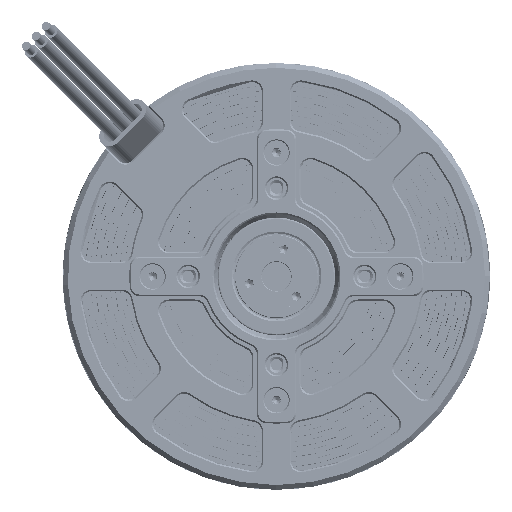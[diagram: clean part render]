
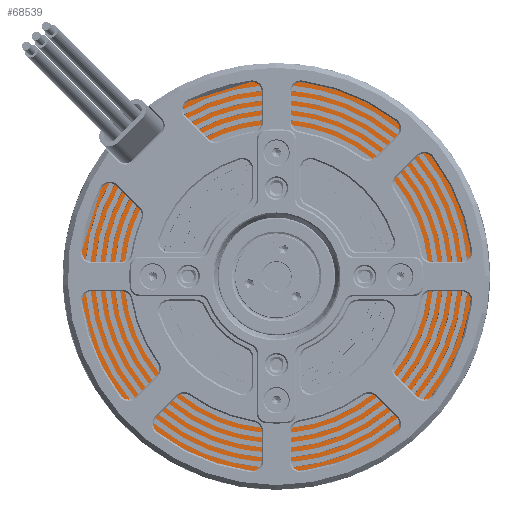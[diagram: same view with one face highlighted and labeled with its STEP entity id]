
A CAD part, front view. The second image highlights one B-rep face of the part: STEP entity #68539.
In plain terms, the highlighted planar face has unit normal (0, -1, 0).
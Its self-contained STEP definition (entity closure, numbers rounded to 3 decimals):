
#2717 = VERTEX_POINT ( 'NONE', #44372 ) ;
#3557 = DIRECTION ( 'NONE',  ( 0., -1., 0. ) ) ;
#4294 = DIRECTION ( 'NONE',  ( 1., 0., 0. ) ) ;
#6452 = DIRECTION ( 'NONE',  ( 0., 0., 1. ) ) ;
#6927 = CIRCLE ( 'NONE', #136398, 42.25 ) ;
#12426 = DIRECTION ( 'NONE',  ( 0., -1., 0. ) ) ;
#20035 = ORIENTED_EDGE ( 'NONE', *, *, #89862, .F. ) ;
#20602 = VERTEX_POINT ( 'NONE', #112180 ) ;
#23413 = AXIS2_PLACEMENT_3D ( 'NONE', #75100, #12426, #58791 ) ;
#28948 = EDGE_LOOP ( 'NONE', ( #59340, #51179 ) ) ;
#30175 = PLANE ( 'NONE',  #23413 ) ;
#37398 = CARTESIAN_POINT ( 'NONE',  ( 0., -1.2, 0. ) ) ;
#37504 = CIRCLE ( 'NONE', #65831, 42.25 ) ;
#38130 = CARTESIAN_POINT ( 'NONE',  ( 0., -1.2, 0. ) ) ;
#44135 = VERTEX_POINT ( 'NONE', #120680 ) ;
#44372 = CARTESIAN_POINT ( 'NONE',  ( 0., -1.2, -30. ) ) ;
#46401 = DIRECTION ( 'NONE',  ( 1., 0., 0. ) ) ;
#48950 = AXIS2_PLACEMENT_3D ( 'NONE', #68529, #113459, #46401 ) ;
#51179 = ORIENTED_EDGE ( 'NONE', *, *, #68876, .T. ) ;
#58791 = DIRECTION ( 'NONE',  ( 1., 0., 0. ) ) ;
#59340 = ORIENTED_EDGE ( 'NONE', *, *, #68787, .T. ) ;
#65460 = CIRCLE ( 'NONE', #48950, 30. ) ;
#65831 = AXIS2_PLACEMENT_3D ( 'NONE', #37398, #117668, #140542 ) ;
#65919 = CIRCLE ( 'NONE', #72958, 30. ) ;
#68529 = CARTESIAN_POINT ( 'NONE',  ( 0., -1.2, 0. ) ) ;
#68539 = ADVANCED_FACE ( 'NONE', ( #99364, #131107 ), #30175, .T. ) ;
#68787 = EDGE_CURVE ( 'NONE', #20602, #44135, #37504, .T. ) ;
#68876 = EDGE_CURVE ( 'NONE', #44135, #20602, #6927, .T. ) ;
#72958 = AXIS2_PLACEMENT_3D ( 'NONE', #73499, #128774, #4294 ) ;
#73499 = CARTESIAN_POINT ( 'NONE',  ( 0., -1.2, 0. ) ) ;
#75100 = CARTESIAN_POINT ( 'NONE',  ( 0., -1.2, 0. ) ) ;
#78262 = CARTESIAN_POINT ( 'NONE',  ( 0., -1.2, 30. ) ) ;
#84720 = EDGE_CURVE ( 'NONE', #134218, #2717, #65460, .T. ) ;
#89862 = EDGE_CURVE ( 'NONE', #2717, #134218, #65919, .T. ) ;
#99364 = FACE_BOUND ( 'NONE', #139081, .T. ) ;
#101138 = ORIENTED_EDGE ( 'NONE', *, *, #84720, .F. ) ;
#112180 = CARTESIAN_POINT ( 'NONE',  ( 0., -1.2, 42.25 ) ) ;
#113459 = DIRECTION ( 'NONE',  ( 0., -1., 0. ) ) ;
#117668 = DIRECTION ( 'NONE',  ( 0., -1., 0. ) ) ;
#120680 = CARTESIAN_POINT ( 'NONE',  ( 0., -1.2, -42.25 ) ) ;
#128774 = DIRECTION ( 'NONE',  ( 0., -1., 0. ) ) ;
#131107 = FACE_OUTER_BOUND ( 'NONE', #28948, .T. ) ;
#134218 = VERTEX_POINT ( 'NONE', #78262 ) ;
#136398 = AXIS2_PLACEMENT_3D ( 'NONE', #38130, #3557, #6452 ) ;
#139081 = EDGE_LOOP ( 'NONE', ( #101138, #20035 ) ) ;
#140542 = DIRECTION ( 'NONE',  ( 0., 0., 1. ) ) ;
